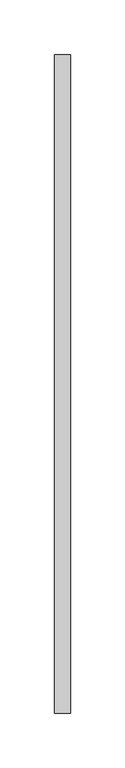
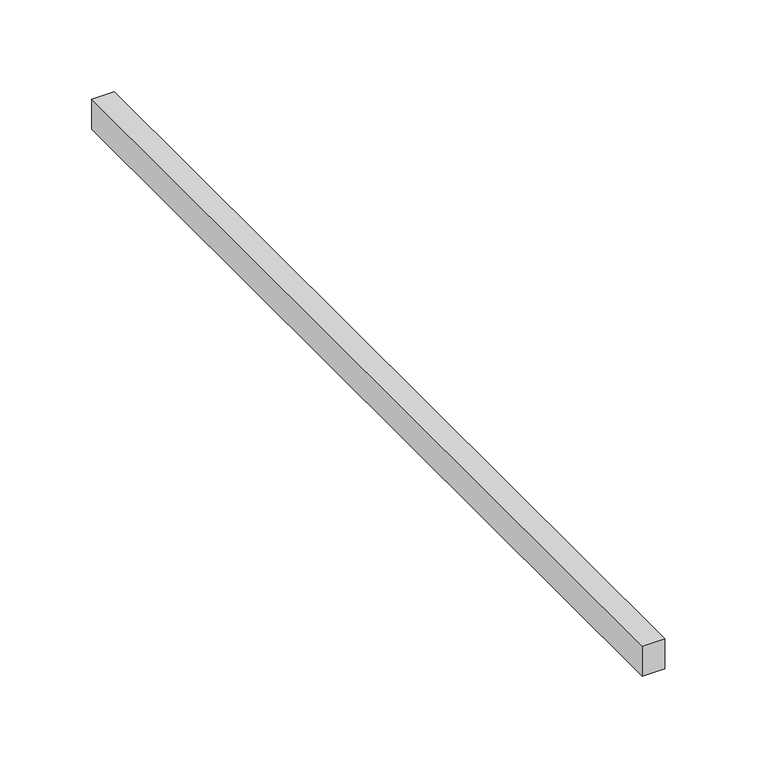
"""IFC4 building model written with IfcOpenShell, lengths in millimetres: light fixture geometry, OWAlight LED Track : 14.3x1200x38 OWAlight 2."""

from ifc_helpers import new_model, si_unit, frame, origin, place, context, project, spatial, polyline, outline, extrude, source, transform, mapped, element, save


def light_fixture_aacdbeec(model_context):
    return source(origin(), model_context, "Body", "SweptSolid", [
        extrude(outline(polyline([(7.15, 300.0), (7.15, -300.0), (-7.15, -300.0), (-7.15, 300.0), (7.15, 300.0)])), frame((0.0, 0.0, 4000.0), z_axis=(0.0, 0.0, 1.0), x_axis=(1.0, 0.0, 0.0)), (0.0, 0.0, 1.0), 20.0),
    ])


if __name__ == "__main__":
    model = new_model("IFC4")
    model_context = context("Model", 3, world=origin())
    ifc_project = project(units=[si_unit("LENGTHUNIT", "METRE", prefix="MILLI")], contexts=[model_context])
    site = spatial("IfcSite", under=ifc_project)
    building = spatial("IfcBuilding", under=site)
    placement = place(None, origin())
    light_fixture_shape = light_fixture_aacdbeec(model_context)
    element("IfcLightFixture", 1, ObjectType="OWAlight LED Track : 14.3x1200x38 OWAlight 2", at=placement, inside=building, context=model_context, shape_type="MappedRepresentation", body=[
        mapped(light_fixture_shape, transform((0.0, 0.0, 0.0), x_axis=(1.0, 0.0, 0.0), y_axis=(0.0, 1.0, 0.0), z_axis=(0.0, 0.0, 1.0))),
    ])
    save(model, "model.ifc")
